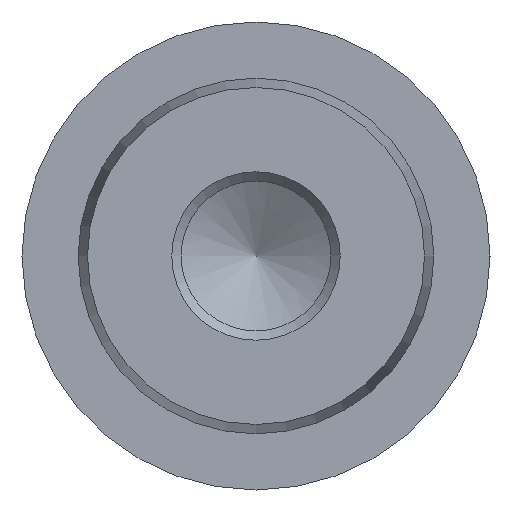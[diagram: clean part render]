
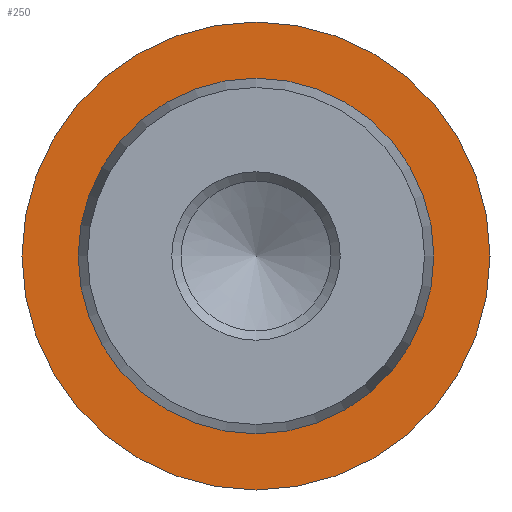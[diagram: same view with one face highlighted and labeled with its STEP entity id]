
A CAD part, left-side view. The second image highlights one B-rep face of the part: STEP entity #250.
In plain terms, the highlighted planar face has unit normal (-1, 0, 0).
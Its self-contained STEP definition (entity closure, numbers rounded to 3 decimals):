
#15=FACE_BOUND('',#87,.T.);
#25=PLANE('',#300);
#68=FACE_OUTER_BOUND('',#86,.T.);
#86=EDGE_LOOP('',(#200));
#87=EDGE_LOOP('',(#201));
#106=CIRCLE('',#299,9.);
#107=CIRCLE('',#301,12.5);
#124=VERTEX_POINT('',#438);
#125=VERTEX_POINT('',#442);
#149=EDGE_CURVE('',#124,#124,#106,.T.);
#151=EDGE_CURVE('',#125,#125,#107,.T.);
#200=ORIENTED_EDGE('',*,*,#151,.F.);
#201=ORIENTED_EDGE('',*,*,#149,.T.);
#250=ADVANCED_FACE('',(#68,#15),#25,.T.);
#299=AXIS2_PLACEMENT_3D('',#439,#366,#367);
#300=AXIS2_PLACEMENT_3D('',#441,#369,#370);
#301=AXIS2_PLACEMENT_3D('',#443,#371,#372);
#366=DIRECTION('center_axis',(1.,0.,0.));
#367=DIRECTION('ref_axis',(0.,0.,-1.));
#369=DIRECTION('center_axis',(-1.,0.,0.));
#370=DIRECTION('ref_axis',(0.,0.,1.));
#371=DIRECTION('center_axis',(1.,0.,0.));
#372=DIRECTION('ref_axis',(0.,0.,-1.));
#438=CARTESIAN_POINT('',(20.,-9.,0.));
#439=CARTESIAN_POINT('Origin',(20.,0.,0.));
#441=CARTESIAN_POINT('Origin',(20.,12.5,0.));
#442=CARTESIAN_POINT('',(20.,-12.5,0.));
#443=CARTESIAN_POINT('Origin',(20.,0.,0.));
